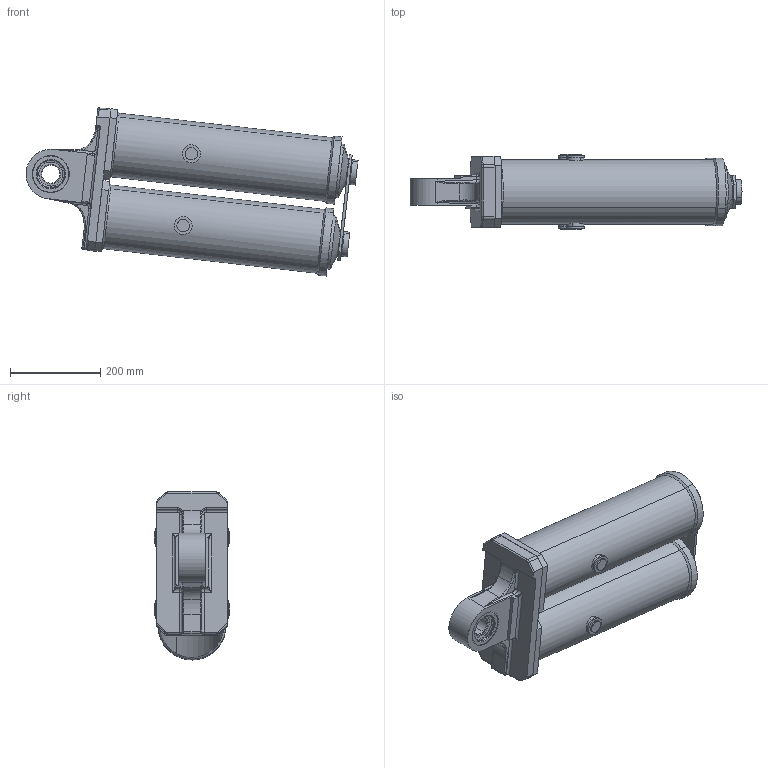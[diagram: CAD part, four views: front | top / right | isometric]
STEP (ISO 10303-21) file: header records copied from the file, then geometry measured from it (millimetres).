
FILE_DESCRIPTION(('CATIA V5 STEP Exchange','CAx-IF Rec.Pracs.--- Model Styling and Organization---1.2---2011-12-15','CAx-IF Rec.Pracs.--- Geometric and Assembly Validation Properties ---3.1---2011-10-19'),'2;1');
FILE_NAME('Z:\ROBOT\CATIA06\products\MC1000DL\Light_model\Step\150_J4Balancer_Pull_Case_MC1000DL-02.stp','2016-12-26T04:02:59+00:00',('none'),('none'),'Version 5-6 Release 2012','CATIA V5 STEP AP214','none');
FILE_SCHEMA(('AUTOMOTIVE_DESIGN { 1 0 10303 214 1 1 1 1 }'));
Length unit declared in the file: millimetre
Products named in the file (1): 150_J4Balancer_Pull_Case_MC1000DL-02
Bounding box: 734.81 x 167 x 372.12 mm (x, y, z)
Volume: 4989823.1 mm3; surface area: 1309656.9 mm2
Topology: 19 solids, 24 shells, 602 faces, 1324 edges, 818 vertices
Faces by surface type: cylinder 241, plane 159, cone 102, bspline 50, torus 44, sphere 6
Entity records: 19777 total; most frequent: CARTESIAN_POINT 7334, ORIENTED_EDGE 2628, DIRECTION 1798, EDGE_CURVE 1314, AXIS2_PLACEMENT_3D 984, VERTEX_POINT 818, EDGE_LOOP 710, CIRCLE 629
